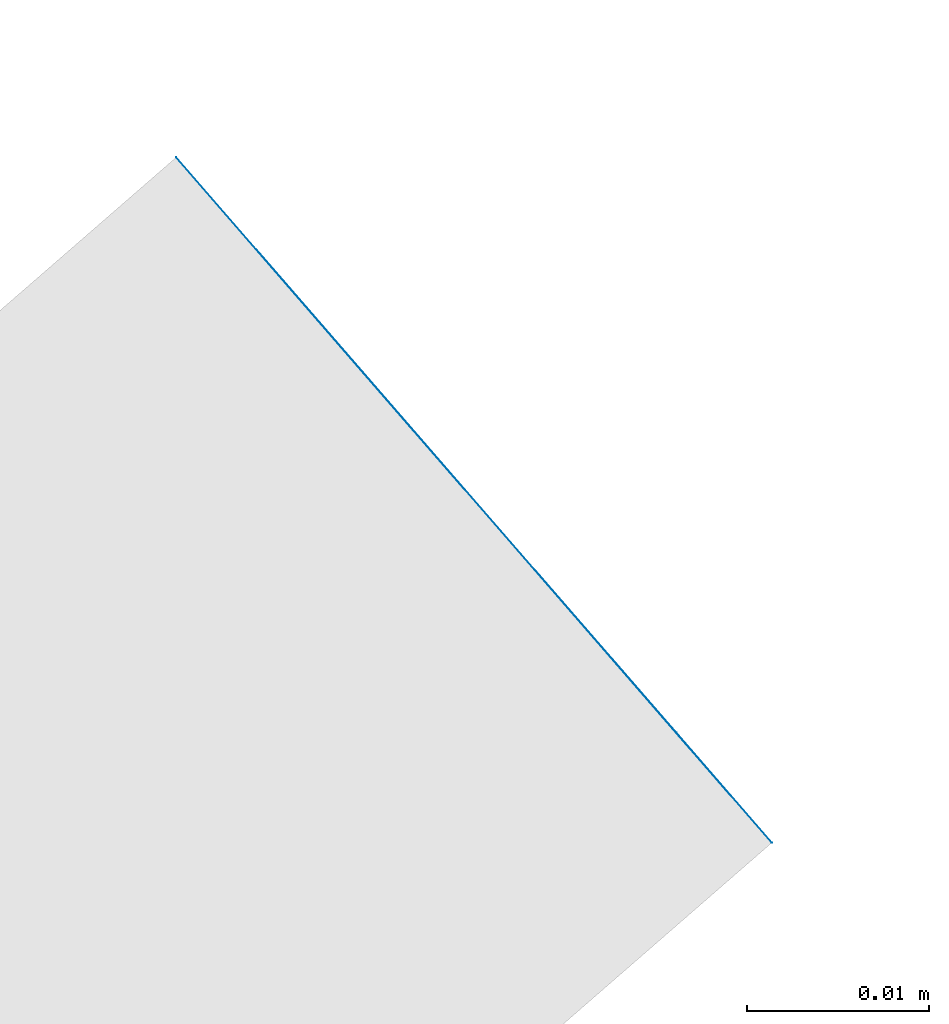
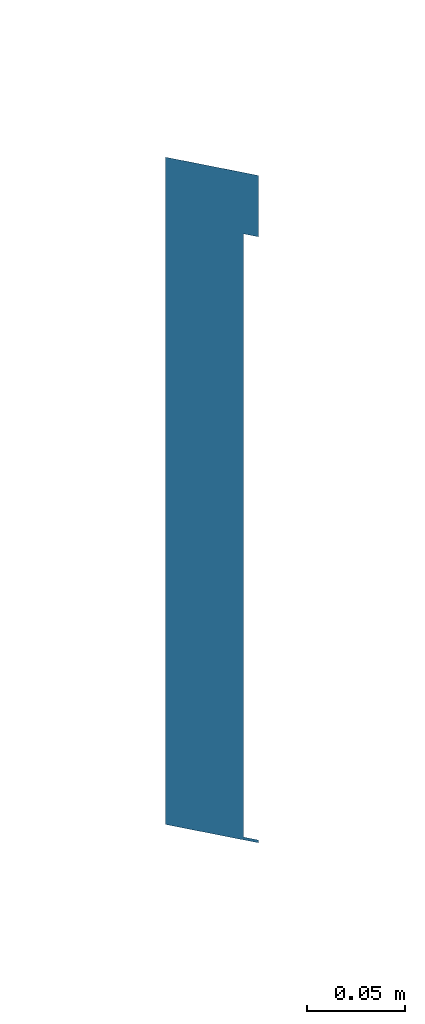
# One storey, part 100 of 124: 1 wall.
"""IFC2X3 building model written with IfcOpenShell, lengths in millimetres."""

from ifc_helpers import new_model, entity, si_unit, converted_unit, derived_unit, money_unit, direction, frame, origin_with_axes, place, context, subcontext, project, spatial, faceted_brep, material, type_object, element, save


model = new_model("IFC2X3")

# Units and contexts
model_context = context("Model", 3, precision=1e-05, world=origin_with_axes(), true_north=direction((0.0, 1.0)))
body_context = subcontext(model_context, "Body", "Model", "MODEL_VIEW")
ifc_project = project(units=[si_unit("LENGTHUNIT", "METRE", prefix="MILLI"), si_unit("AREAUNIT", "SQUARE_METRE"), si_unit("VOLUMEUNIT", "CUBIC_METRE"), converted_unit("PLANEANGLEUNIT", "DEGREE", entity("IfcPlaneAngleMeasure", 0.0174532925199), si_unit("PLANEANGLEUNIT", "RADIAN"), dimensions=[0, 0, 0, 0, 0, 0, 0]), si_unit("SOLIDANGLEUNIT", "STERADIAN"), money_unit("EUR"), converted_unit("TIMEUNIT", "Year", entity("IfcTimeMeasure", 31556926.0), si_unit("TIMEUNIT", "SECOND"), dimensions=[0, 0, 1, 0, 0, 0, 0]), si_unit("MASSUNIT", "GRAM", prefix="KILO"), si_unit("THERMODYNAMICTEMPERATUREUNIT", "DEGREE_CELSIUS"), si_unit("LUMINOUSINTENSITYUNIT", "LUMEN"), si_unit("ENERGYUNIT", "JOULE", prefix="MEGA"), derived_unit("THERMALCONDUCTANCEUNIT", [(si_unit("POWERUNIT", "WATT"), 1), (si_unit("LENGTHUNIT", "METRE"), -1), (si_unit("THERMODYNAMICTEMPERATUREUNIT", "KELVIN"), -1)]), derived_unit("SPECIFICHEATCAPACITYUNIT", [(si_unit("ENERGYUNIT", "JOULE"), 1), (si_unit("MASSUNIT", "GRAM", prefix="KILO"), -1), (si_unit("THERMODYNAMICTEMPERATUREUNIT", "KELVIN"), -1)]), derived_unit("MASSDENSITYUNIT", [(si_unit("MASSUNIT", "GRAM", prefix="KILO"), 1), (si_unit("VOLUMEUNIT", "CUBIC_METRE"), -1)])], contexts=[model_context])

# Site, building, storey
site_placement = place(None, origin_with_axes())
site = spatial("IfcSite", under=ifc_project, at=site_placement, Name="Site", CompositionType="ELEMENT")
building_placement = place(site_placement, origin_with_axes())
building = spatial("IfcBuilding", under=site, at=building_placement, Name="Building", CompositionType="ELEMENT")
storey_placement = place(building_placement, frame((0.0, 0.0, -1615.0), z_axis=(0.0, 0.0, 1.0), x_axis=(1.0, 0.0, 0.0)))
storey = spatial("IfcBuildingStorey", under=building, at=storey_placement, Name="0  korrus", CompositionType="ELEMENT", Elevation=-1615.0)

# Wall
ifc_material = material(Name="Site specified")
wall_type = type_object("IfcWallType", Name="Puitfassaadi ribistik", PredefinedType="NOTDEFINED")
wall_placement = place(storey_placement, frame((159367.600758, 108572.557568, 2945.0), z_axis=(0.0, 0.0, 1.0), x_axis=(0.754709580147, 0.656059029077, 0.0)))
element("IfcWall", 1, at=wall_placement, inside=storey, type_object=wall_type, material=ifc_material, Name="Site specified", context=body_context, shape_type="Brep", body=[
    faceted_brep([(24.9760594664, -25.0, 414.0), (24.9758551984, -25.0, 375.994511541), (25.0, -25.0, 375.989682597), (25.0, -25.0, 414.0), (24.9758551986, -16.9999992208, 1.72652843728), (24.9758551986, -16.9999992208, 375.994511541), (24.976054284, 25.0, 414.0), (24.9760475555, 25.0, 0.0), (24.9760581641, -25.0, 0.0), (24.9758551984, -25.0, 1.72652843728), (25.0, -16.9999992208, 375.989682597), (25.0, -16.9999992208, 1.7216994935), (25.0, -25.0, 1.72169949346), (25.0, -25.0, 0.0), (25.0, 25.0, 0.0), (25.0, 25.0, 414.0)], [[[0, 1, 2, 3]], [[4, 5, 1, 0, 6, 7, 8, 9]], [[5, 10, 2, 1]], [[10, 11, 12, 13, 14, 15, 3, 2]], [[3, 15, 6, 0]], [[4, 11, 10, 5]], [[15, 14, 7, 6]], [[14, 13, 8, 7]], [[13, 12, 9, 8]], [[4, 9, 12, 11]]]),
])

save(model, "model.ifc")
